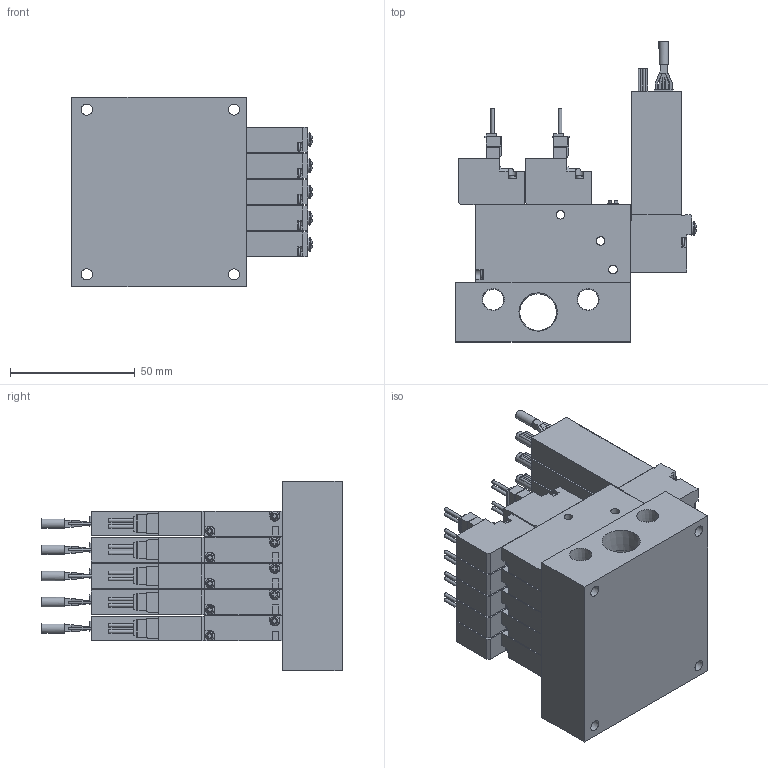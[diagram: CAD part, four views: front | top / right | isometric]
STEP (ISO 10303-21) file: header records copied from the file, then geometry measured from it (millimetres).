
FILE_DESCRIPTION(('STEP AP203'),'1');
FILE_NAME('BMPV42M10.10P.10PS5A(B)505.stp','2025-04-30T01:57:36',(' '),(' '),'Spatial InterOp 3D',' ',' ');
FILE_SCHEMA(('CONFIG_CONTROL_DESIGN'));
Length unit declared in the file: millimetre
Products named in the file (5): BMPV42M10.10P.10PS5A(B)505; VACUUM VALVE FUNCTION MPV42-A; VACUUM SENSOR MPV42-10; UNIT-MPV42; MPV42-M50R-1
Assembly tree (21 placements, depth 2):
  BMPV42M10.10P.10PS5A(B)505
    VACUUM VALVE FUNCTION MPV42-A  x10
    VACUUM SENSOR MPV42-10  x5
    UNIT-MPV42  x5
    MPV42-M50R-1
Bounding box: 96.35 x 120.3 x 76 mm (x, y, z)
Volume: 321005.8 mm3; surface area: 107457.8 mm2
Topology: 21 solids, 21 shells, 1959 faces, 5279 edges, 3502 vertices
Faces by surface type: plane 1526, cylinder 357, cone 26, sphere 25, torus 25
Full cylindrical faces by diameter (mm): 0.9 x20, 1.4 x20, 1.8 x5, 2.2 x10, 3 x20, 3.5 x55, 3.8 x5, 4.134 x10, 4.5 x4, 5 x5, 5.5 x5, 8.441 x2, 14.744 x1
Entity records: 9759 total; most frequent: CARTESIAN_POINT 1892, DIRECTION 1555, ORIENTED_EDGE 1490, EDGE_CURVE 745, LINE 551, VECTOR 551, VERTEX_POINT 521, AXIS2_PLACEMENT_3D 502
